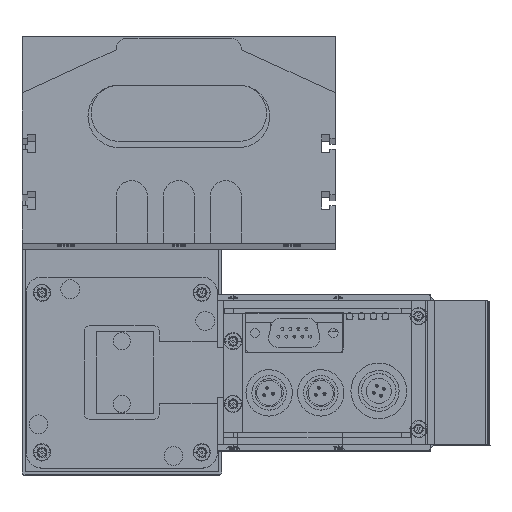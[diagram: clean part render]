
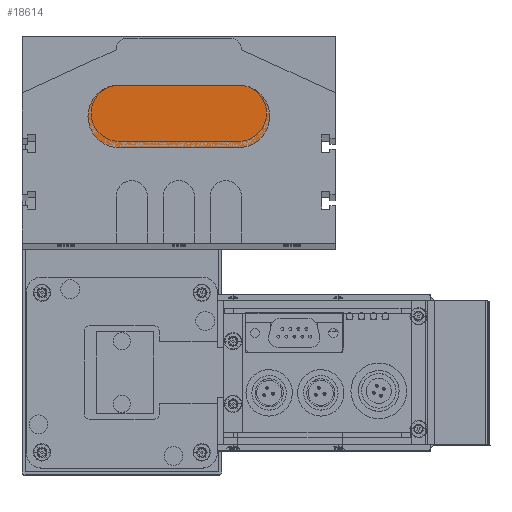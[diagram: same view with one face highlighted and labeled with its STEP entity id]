
A CAD part, top view. The second image highlights one B-rep face of the part: STEP entity #18614.
In plain terms, the highlighted planar face has unit normal (0, 0, 1).
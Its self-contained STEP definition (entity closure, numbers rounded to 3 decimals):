
#18516 = EDGE_CURVE ( 'NONE', #18573, #18574, #28106, .T. ) ;
#18548 = EDGE_CURVE ( 'NONE', #18574, #18564, #28181, .T. ) ;
#18555 = EDGE_CURVE ( 'NONE', #18556, #18573, #28220, .T. ) ;
#18556 = VERTEX_POINT ( 'NONE', #28165 ) ;
#18562 = VERTEX_POINT ( 'NONE', #28159 ) ;
#18564 = VERTEX_POINT ( 'NONE', #28206 ) ;
#18573 = VERTEX_POINT ( 'NONE', #28194 ) ;
#18574 = VERTEX_POINT ( 'NONE', #28256 ) ;
#18587 = ORIENTED_EDGE ( 'NONE', *, *, #18620, .T. ) ;
#18603 = EDGE_LOOP ( 'NONE', ( #18611, #18605, #18612, #18587, #18615 ) ) ;
#18604 = EDGE_CURVE ( 'NONE', #18562, #18556, #28276, .T. ) ;
#18605 = ORIENTED_EDGE ( 'NONE', *, *, #18516, .T. ) ;
#18611 = ORIENTED_EDGE ( 'NONE', *, *, #18555, .T. ) ;
#18612 = ORIENTED_EDGE ( 'NONE', *, *, #18548, .T. ) ;
#18614 = ADVANCED_FACE ( 'NONE', ( #28287 ), #28280, .T. ) ;
#18615 = ORIENTED_EDGE ( 'NONE', *, *, #18604, .T. ) ;
#18620 = EDGE_CURVE ( 'NONE', #18564, #18562, #28271, .T. ) ;
#28095 = CARTESIAN_POINT ( 'NONE',  ( 0., 10., 10. ) ) ;
#28101 = AXIS2_PLACEMENT_3D ( 'NONE', #28095, #28112, #28154 ) ;
#28106 = CIRCLE ( 'NONE', #28101, 10. ) ;
#28112 = DIRECTION ( 'NONE',  ( 0., 0., 1. ) ) ;
#28154 = DIRECTION ( 'NONE',  ( 1., 0., 0. ) ) ;
#28159 = CARTESIAN_POINT ( 'NONE',  ( 38., 20., 10. ) ) ;
#28162 = DIRECTION ( 'NONE',  ( 1., 0., 0. ) ) ;
#28163 = VECTOR ( 'NONE', #28162, 1000. ) ;
#28164 = CARTESIAN_POINT ( 'NONE',  ( 0., 0., 10. ) ) ;
#28165 = CARTESIAN_POINT ( 'NONE',  ( 0., 20., 10. ) ) ;
#28181 = LINE ( 'NONE', #28164, #28163 ) ;
#28194 = CARTESIAN_POINT ( 'NONE',  ( -10., 10., 10. ) ) ;
#28206 = CARTESIAN_POINT ( 'NONE',  ( 38., 0., 10. ) ) ;
#28212 = DIRECTION ( 'NONE',  ( 1., 0., 0. ) ) ;
#28213 = DIRECTION ( 'NONE',  ( 0., 0., 1. ) ) ;
#28214 = AXIS2_PLACEMENT_3D ( 'NONE', #28216, #28213, #28212 ) ;
#28216 = CARTESIAN_POINT ( 'NONE',  ( 0., 10., 10. ) ) ;
#28220 = CIRCLE ( 'NONE', #28214, 10. ) ;
#28256 = CARTESIAN_POINT ( 'NONE',  ( 0., 0., 10. ) ) ;
#28258 = DIRECTION ( 'NONE',  ( 0., 0., 1. ) ) ;
#28259 = CARTESIAN_POINT ( 'NONE',  ( 38., 10., 10. ) ) ;
#28265 = DIRECTION ( 'NONE',  ( 1., 0., 0. ) ) ;
#28266 = DIRECTION ( 'NONE',  ( 0., 0., 1. ) ) ;
#28267 = AXIS2_PLACEMENT_3D ( 'NONE', #28259, #28258, #28331 ) ;
#28271 = CIRCLE ( 'NONE', #28267, 10. ) ;
#28273 = DIRECTION ( 'NONE',  ( -1., 0., 0. ) ) ;
#28274 = VECTOR ( 'NONE', #28273, 1000. ) ;
#28275 = CARTESIAN_POINT ( 'NONE',  ( 0., 20., 10. ) ) ;
#28276 = LINE ( 'NONE', #28275, #28274 ) ;
#28277 = CARTESIAN_POINT ( 'NONE',  ( 0., 10., 10. ) ) ;
#28280 = PLANE ( 'NONE',  #28290 ) ;
#28287 = FACE_OUTER_BOUND ( 'NONE', #18603, .T. ) ;
#28290 = AXIS2_PLACEMENT_3D ( 'NONE', #28277, #28266, #28265 ) ;
#28331 = DIRECTION ( 'NONE',  ( -1., 0., 0. ) ) ;
